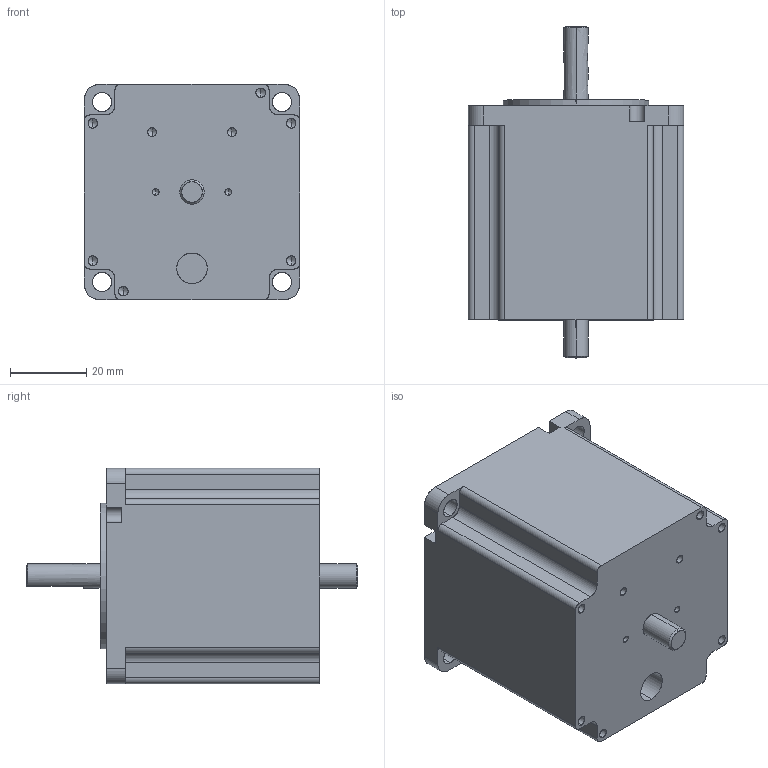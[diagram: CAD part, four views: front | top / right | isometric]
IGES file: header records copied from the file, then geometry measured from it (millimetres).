
Start section: SolidWorks IGES file using analytic representation for surfaces
Global section: file name: C:\Users\Christine\Documents\Arcus\Project #21\STM-23-2\STM-23-2.IGS; native system: SolidWorks 2008; preprocessor: SolidWorks 2008; author: Christine; date: 131009.112548; units: millimetre
Bounding box: 56.4 x 87 x 56.4 mm (x, y, z)
Surface area: 20451.7 mm2 (no closed solid volume)
Topology: 0 solids, 0 shells, 132 faces, 1983 edges, 1955 vertices
Faces by surface type: revolution 96, bspline 36
